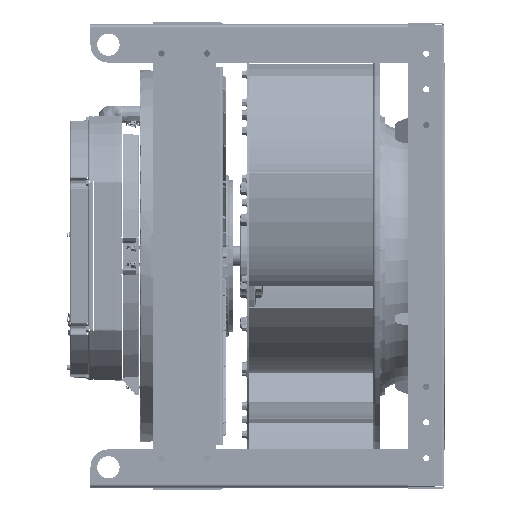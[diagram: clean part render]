
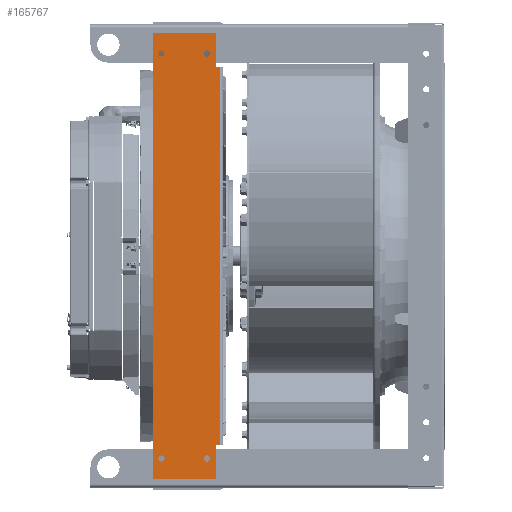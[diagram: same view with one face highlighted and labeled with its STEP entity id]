
A CAD part, front view. The second image highlights one B-rep face of the part: STEP entity #165767.
In plain terms, the highlighted planar face has unit normal (0, -1, 0) as drawn and (0, 0, 1) by its records, which use the part's own axes.
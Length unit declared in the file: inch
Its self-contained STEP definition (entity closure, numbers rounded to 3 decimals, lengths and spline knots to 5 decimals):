
#266 = VERTEX_POINT ( 'NONE', #55475 ) ;
#4141 = EDGE_LOOP ( 'NONE', ( #174504, #116652, #109325, #115595, #11538, #261691, #16816, #215331 ) ) ;
#4696 = FACE_BOUND ( 'NONE', #175074, .T. ) ;
#6774 = LINE ( 'NONE', #136445, #9666 ) ;
#9148 = DIRECTION ( 'NONE',  ( -1., 0., 0. ) ) ;
#9666 = VECTOR ( 'NONE', #264727, 39.37008 ) ;
#11538 = ORIENTED_EDGE ( 'NONE', *, *, #119915, .F. ) ;
#13420 = LINE ( 'NONE', #54317, #139123 ) ;
#15295 = DIRECTION ( 'NONE',  ( 0., -1., 0. ) ) ;
#16816 = ORIENTED_EDGE ( 'NONE', *, *, #82624, .T. ) ;
#19424 = VERTEX_POINT ( 'NONE', #144875 ) ;
#20528 = CARTESIAN_POINT ( 'NONE',  ( -12.465, -1.77, 0.135 ) ) ;
#21916 = CARTESIAN_POINT ( 'NONE',  ( 10.555, 1.9775, 0.135 ) ) ;
#24598 = DIRECTION ( 'NONE',  ( 0., 0., 1. ) ) ;
#35023 = AXIS2_PLACEMENT_3D ( 'NONE', #112435, #48987, #257645 ) ;
#35094 = AXIS2_PLACEMENT_3D ( 'NONE', #194992, #259851, #216163 ) ;
#35719 = VERTEX_POINT ( 'NONE', #214587 ) ;
#35770 = CARTESIAN_POINT ( 'NONE',  ( -10.555, 1.9775, 0.135 ) ) ;
#38129 = CARTESIAN_POINT ( 'NONE',  ( -10.555, 1.77, 0.135 ) ) ;
#45647 = EDGE_CURVE ( 'NONE', #241493, #136565, #86717, .T. ) ;
#48987 = DIRECTION ( 'NONE',  ( 0., 0., 1. ) ) ;
#53674 = CIRCLE ( 'NONE', #175161, 0.172 ) ;
#54317 = CARTESIAN_POINT ( 'NONE',  ( -12.465, -1.77, 0.135 ) ) ;
#54963 = DIRECTION ( 'NONE',  ( -1., 0., 0. ) ) ;
#55048 = ORIENTED_EDGE ( 'NONE', *, *, #257335, .F. ) ;
#55475 = CARTESIAN_POINT ( 'NONE',  ( 10.555, 1.9775, 0.135 ) ) ;
#55558 = CARTESIAN_POINT ( 'NONE',  ( 11.305, -1.27, 0.135 ) ) ;
#56064 = EDGE_CURVE ( 'NONE', #136565, #221576, #13420, .T. ) ;
#59439 = EDGE_LOOP ( 'NONE', ( #247252 ) ) ;
#59646 = LINE ( 'NONE', #90150, #251047 ) ;
#60623 = AXIS2_PLACEMENT_3D ( 'NONE', #258562, #24598, #133111 ) ;
#66650 = CIRCLE ( 'NONE', #35023, 0.172 ) ;
#70041 = CARTESIAN_POINT ( 'NONE',  ( -11.477, -1.27, 0.135 ) ) ;
#70741 = CARTESIAN_POINT ( 'NONE',  ( 12.465, -1.77, 0.135 ) ) ;
#71201 = LINE ( 'NONE', #88165, #112899 ) ;
#79488 = DIRECTION ( 'NONE',  ( 1., 0., 0. ) ) ;
#82275 = CARTESIAN_POINT ( 'NONE',  ( -12.465, -1.77, 0.135 ) ) ;
#82624 = EDGE_CURVE ( 'NONE', #135335, #87586, #130184, .T. ) ;
#83946 = DIRECTION ( 'NONE',  ( 0., -1., 0. ) ) ;
#85680 = CIRCLE ( 'NONE', #220715, 0.172 ) ;
#86075 = VECTOR ( 'NONE', #15295, 39.37008 ) ;
#86717 = LINE ( 'NONE', #20528, #175888 ) ;
#86985 = VERTEX_POINT ( 'NONE', #70041 ) ;
#87586 = VERTEX_POINT ( 'NONE', #38129 ) ;
#88098 = LINE ( 'NONE', #21916, #86075 ) ;
#88165 = CARTESIAN_POINT ( 'NONE',  ( 12.465, -1.77, 0.135 ) ) ;
#88740 = DIRECTION ( 'NONE',  ( -1., 0., 0. ) ) ;
#90150 = CARTESIAN_POINT ( 'NONE',  ( 10.555, 1.9775, 0.135 ) ) ;
#108880 = EDGE_CURVE ( 'NONE', #19424, #19424, #66650, .T. ) ;
#109325 = ORIENTED_EDGE ( 'NONE', *, *, #270891, .T. ) ;
#110105 = CIRCLE ( 'NONE', #60623, 0.172 ) ;
#110455 = FACE_BOUND ( 'NONE', #185892, .T. ) ;
#110471 = ORIENTED_EDGE ( 'NONE', *, *, #108880, .F. ) ;
#112435 = CARTESIAN_POINT ( 'NONE',  ( 11.305, 1.27, 0.135 ) ) ;
#112899 = VECTOR ( 'NONE', #261515, 39.37008 ) ;
#115595 = ORIENTED_EDGE ( 'NONE', *, *, #277663, .T. ) ;
#115627 = DIRECTION ( 'NONE',  ( 0., 0., 1. ) ) ;
#116652 = ORIENTED_EDGE ( 'NONE', *, *, #56064, .T. ) ;
#117769 = EDGE_CURVE ( 'NONE', #86985, #86985, #85680, .T. ) ;
#119915 = EDGE_CURVE ( 'NONE', #266, #205078, #88098, .T. ) ;
#130184 = LINE ( 'NONE', #155447, #178063 ) ;
#133111 = DIRECTION ( 'NONE',  ( 1., 0., 0. ) ) ;
#135335 = VERTEX_POINT ( 'NONE', #35770 ) ;
#136445 = CARTESIAN_POINT ( 'NONE',  ( -12.465, 1.77, 0.135 ) ) ;
#136565 = VERTEX_POINT ( 'NONE', #82275 ) ;
#139123 = VECTOR ( 'NONE', #230368, 39.37008 ) ;
#141866 = CARTESIAN_POINT ( 'NONE',  ( 12.465, 1.77, 0.135 ) ) ;
#144875 = CARTESIAN_POINT ( 'NONE',  ( 11.133, 1.27, 0.135 ) ) ;
#155447 = CARTESIAN_POINT ( 'NONE',  ( -10.555, 1.9775, 0.135 ) ) ;
#158391 = EDGE_CURVE ( 'NONE', #87586, #241493, #265686, .T. ) ;
#165767 = ADVANCED_FACE ( 'NONE', ( #237304, #238702, #4696, #110455, #258441 ), #218936, .F. ) ;
#171015 = DIRECTION ( 'NONE',  ( 0., -1., 0. ) ) ;
#174504 = ORIENTED_EDGE ( 'NONE', *, *, #45647, .T. ) ;
#175074 = EDGE_LOOP ( 'NONE', ( #258613 ) ) ;
#175161 = AXIS2_PLACEMENT_3D ( 'NONE', #55558, #187973, #79488 ) ;
#175888 = VECTOR ( 'NONE', #83946, 39.37008 ) ;
#177309 = EDGE_LOOP ( 'NONE', ( #110471 ) ) ;
#178063 = VECTOR ( 'NONE', #171015, 39.37008 ) ;
#182383 = EDGE_CURVE ( 'NONE', #35719, #35719, #110105, .T. ) ;
#185892 = EDGE_LOOP ( 'NONE', ( #55048 ) ) ;
#187973 = DIRECTION ( 'NONE',  ( 0., 0., 1. ) ) ;
#194992 = CARTESIAN_POINT ( 'NONE',  ( 0., 0., 0.135 ) ) ;
#200833 = CARTESIAN_POINT ( 'NONE',  ( -12.465, 1.77, 0.135 ) ) ;
#205078 = VERTEX_POINT ( 'NONE', #274023 ) ;
#214587 = CARTESIAN_POINT ( 'NONE',  ( -11.133, 1.27, 0.135 ) ) ;
#215331 = ORIENTED_EDGE ( 'NONE', *, *, #158391, .T. ) ;
#216163 = DIRECTION ( 'NONE',  ( -1., 0., 0. ) ) ;
#216226 = CARTESIAN_POINT ( 'NONE',  ( -12.465, 1.77, 0.135 ) ) ;
#218936 = PLANE ( 'NONE',  #35094 ) ;
#220715 = AXIS2_PLACEMENT_3D ( 'NONE', #222714, #115627, #54963 ) ;
#221576 = VERTEX_POINT ( 'NONE', #70741 ) ;
#222714 = CARTESIAN_POINT ( 'NONE',  ( -11.305, -1.27, 0.135 ) ) ;
#230368 = DIRECTION ( 'NONE',  ( 1., 0., 0. ) ) ;
#237304 = FACE_OUTER_BOUND ( 'NONE', #4141, .T. ) ;
#238702 = FACE_BOUND ( 'NONE', #59439, .T. ) ;
#238899 = VERTEX_POINT ( 'NONE', #257253 ) ;
#239134 = VERTEX_POINT ( 'NONE', #141866 ) ;
#241493 = VERTEX_POINT ( 'NONE', #216226 ) ;
#247252 = ORIENTED_EDGE ( 'NONE', *, *, #117769, .F. ) ;
#249301 = EDGE_CURVE ( 'NONE', #266, #135335, #59646, .T. ) ;
#251047 = VECTOR ( 'NONE', #88740, 39.37008 ) ;
#254842 = VECTOR ( 'NONE', #9148, 39.37008 ) ;
#257253 = CARTESIAN_POINT ( 'NONE',  ( 11.477, -1.27, 0.135 ) ) ;
#257335 = EDGE_CURVE ( 'NONE', #238899, #238899, #53674, .T. ) ;
#257645 = DIRECTION ( 'NONE',  ( -1., 0., 0. ) ) ;
#258441 = FACE_BOUND ( 'NONE', #177309, .T. ) ;
#258562 = CARTESIAN_POINT ( 'NONE',  ( -11.305, 1.27, 0.135 ) ) ;
#258613 = ORIENTED_EDGE ( 'NONE', *, *, #182383, .F. ) ;
#259851 = DIRECTION ( 'NONE',  ( 0., 0., -1. ) ) ;
#261515 = DIRECTION ( 'NONE',  ( 0., 1., 0. ) ) ;
#261691 = ORIENTED_EDGE ( 'NONE', *, *, #249301, .T. ) ;
#264727 = DIRECTION ( 'NONE',  ( -1., 0., 0. ) ) ;
#265686 = LINE ( 'NONE', #200833, #254842 ) ;
#270891 = EDGE_CURVE ( 'NONE', #221576, #239134, #71201, .T. ) ;
#274023 = CARTESIAN_POINT ( 'NONE',  ( 10.555, 1.77, 0.135 ) ) ;
#277663 = EDGE_CURVE ( 'NONE', #239134, #205078, #6774, .T. ) ;
